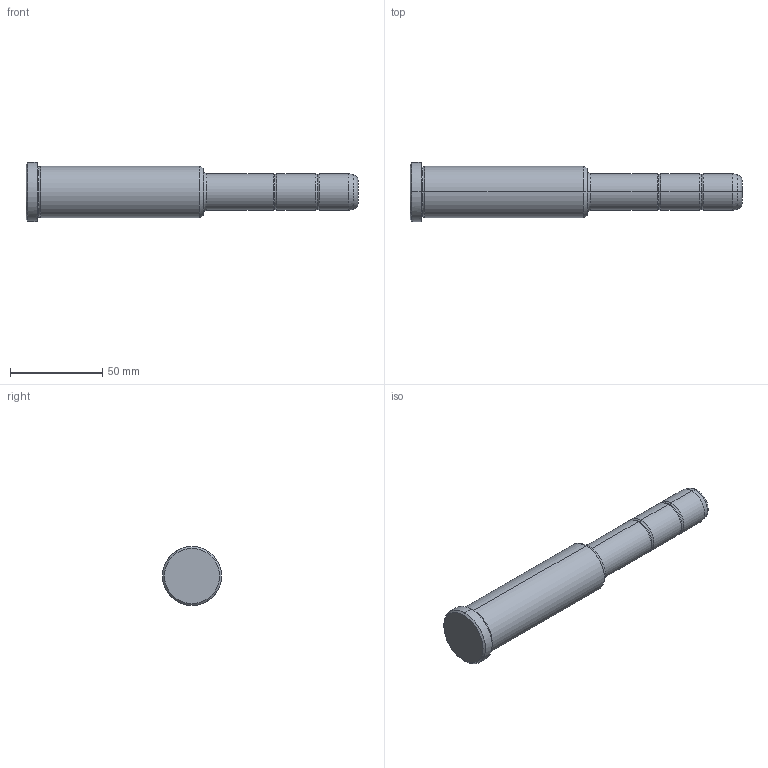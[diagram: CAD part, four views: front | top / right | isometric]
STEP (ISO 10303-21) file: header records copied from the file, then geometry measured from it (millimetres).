
FILE_DESCRIPTION(('CATIA V5 STEP Exchange'),'2;1');
FILE_NAME('C:\Users\Utente\Desktop\IO LAVORO\3D X SITO CF\X SITO\PLASTICA\351\351-20X96X180.stp','2021-08-27T13:02:31+00:00',('none'),('none'),'CATIA Version 5 Release 20 GA (IN-10)','CATIA V5 STEP AP203','none');
FILE_SCHEMA(('CONFIG_CONTROL_DESIGN'));
Length unit declared in the file: millimetre
Products named in the file (1): 351-20X96X180
Bounding box: 180 x 32 x 32 mm (x, y, z)
Volume: 86140.3 mm3; surface area: 15140.5 mm2
Topology: 1 solids, 1 shells, 36 faces, 102 edges, 70 vertices
Faces by surface type: torus 16, cylinder 10, cone 6, plane 4
Entity records: 1292 total; most frequent: CARTESIAN_POINT 321, ORIENTED_EDGE 204, DIRECTION 166, AXIS2_PLACEMENT_3D 115, EDGE_CURVE 102, CIRCLE 78, VERTEX_POINT 70, EDGE_LOOP 38
